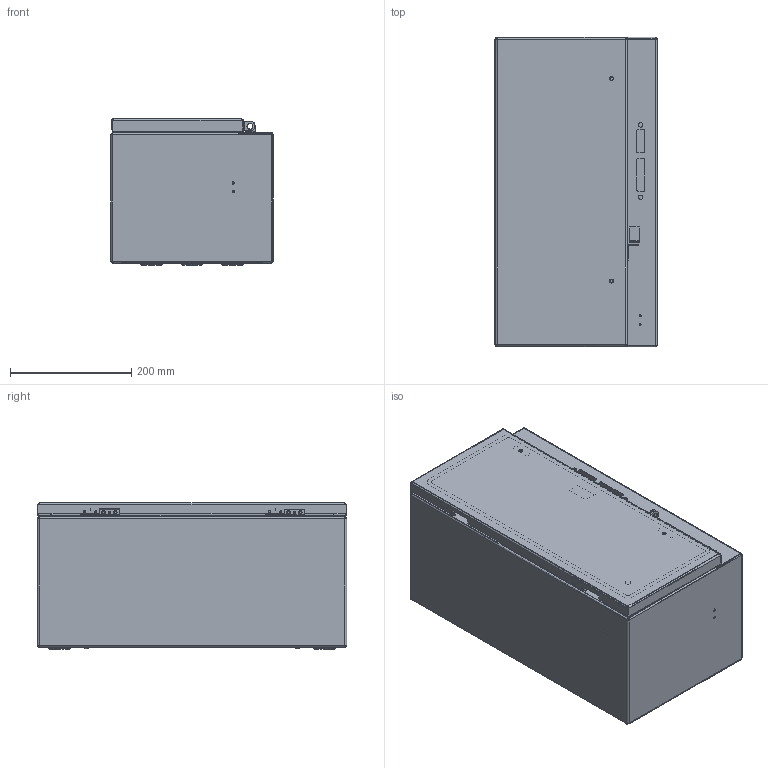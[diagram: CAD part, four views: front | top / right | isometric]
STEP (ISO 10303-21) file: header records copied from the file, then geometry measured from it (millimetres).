
FILE_DESCRIPTION((''),'2;1');
FILE_NAME('40406-293-CLOSED_ASM','2017-06-14T',('EAJamale'),('Rockwell Automation'),'PRO/ENGINEER BY PARAMETRIC TECHNOLOGY CORPORATION, 2012480','PRO/ENGINEER BY PARAMETRIC TECHNOLOGY CORPORATION, 2012480','');
FILE_SCHEMA(('CONFIG_CONTROL_DESIGN'));
Length unit declared in the file: inch
Products named in the file (19): 40406-293-LHWRP-FM; 40406-293-BACKPL; 40406-293-RHSIDE; 40406-062; 40406-B37574; 40406-M7881; 41021-105; 41021-WELD-PROJ; 41021-105-PROJ01; 41021-105_ASM; 40406-070; 40406-293-BASE_ASM; 40406-293-DOOR1HOL; B-35623; 40406-293-GASKET1; 40406-B36552; 40406-B37393; 40406-293-DOORASM1_ASM; 40406-293-CLOSED_ASM
Assembly tree (28 placements, depth 4):
  40406-293-CLOSED_ASM
    40406-293-BASE_ASM
      40406-293-LHWRP-FM
      40406-293-BACKPL
      40406-293-RHSIDE
      40406-062  x2
      40406-B37574  x4
      40406-M7881
      41021-105_ASM  x2
        41021-105
        41021-WELD-PROJ
        41021-105-PROJ01
      40406-070
    40406-293-DOORASM1_ASM
      40406-293-DOOR1HOL
      B-35623  x2
      40406-293-GASKET1
      40406-M7881
      40406-070
      40406-B36552
      40406-B37393  x2
Bounding box: 266.7 x 509.45 x 240.7 mm (x, y, z)
Volume: 1145757.9 mm3; surface area: 1448502.2 mm2
Topology: 28 solids, 28 shells, 1014 faces, 2291 edges, 1352 vertices
Faces by surface type: plane 482, cylinder 328, cone 104, torus 48, sphere 32, bspline 20
Entity records: 20535 total; most frequent: CARTESIAN_POINT 4112, DIRECTION 3617, ORIENTED_EDGE 3106, EDGE_CURVE 1553, AXIS2_PLACEMENT_3D 1364, VERTEX_POINT 935, VECTOR 889, LINE 889
